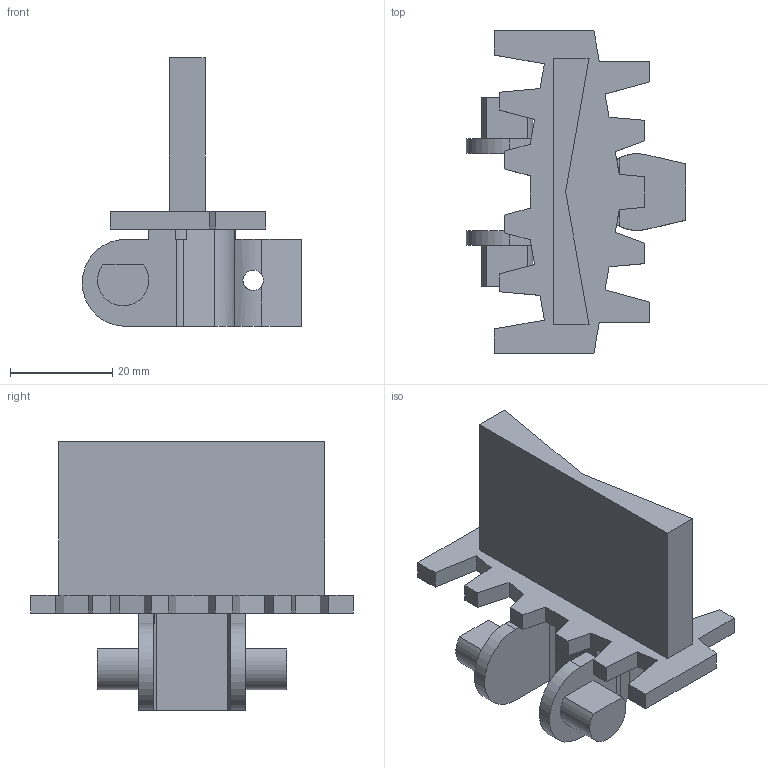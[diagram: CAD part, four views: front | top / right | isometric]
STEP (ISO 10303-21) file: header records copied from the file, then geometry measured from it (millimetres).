
FILE_DESCRIPTION (( 'STEP AP214' ), '1' );
FILE_NAME ('FSCT-5C-H30-P.STEP', '2011-09-28T07:58:58', ( '.' ), ( '' ), 'SwSTEP 2.0', 'SolidWorks 2010', '' );
FILE_SCHEMA (( 'AUTOMOTIVE_DESIGN' ));
Length unit declared in the file: millimetre
Products named in the file (1): FSCT-5C-H30-P
Bounding box: 42.9 x 63 x 52.5 mm (x, y, z)
Volume: 20768 mm3; surface area: 11019.4 mm2
Topology: 1 solids, 1 shells, 96 faces, 277 edges, 183 vertices
Faces by surface type: plane 82, cylinder 14
Entity records: 3231 total; most frequent: CARTESIAN_POINT 655, ORIENTED_EDGE 554, DIRECTION 491, EDGE_CURVE 277, LINE 241, VECTOR 241, VERTEX_POINT 183, AXIS2_PLACEMENT_3D 125
